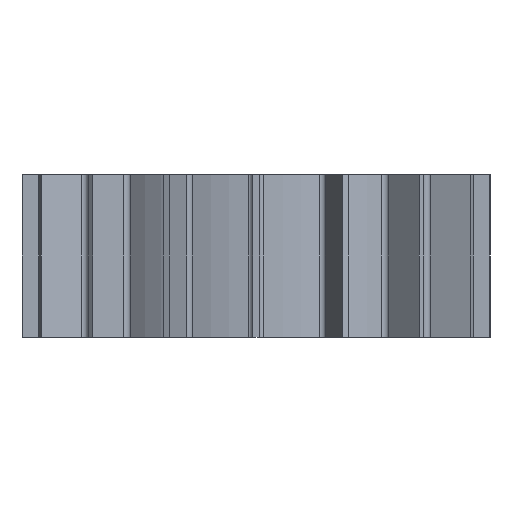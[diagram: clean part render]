
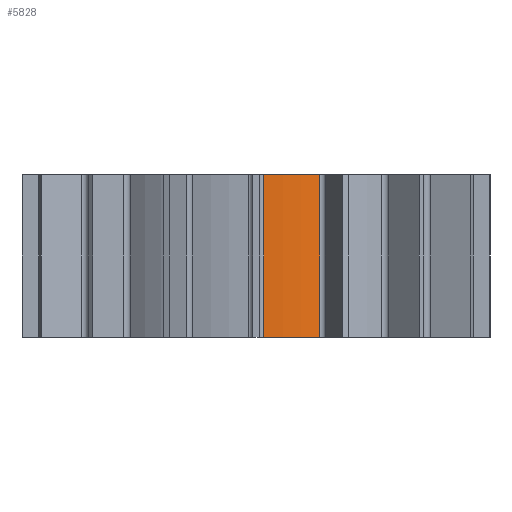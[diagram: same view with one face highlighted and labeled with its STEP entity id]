
A CAD part, front view. The second image highlights one B-rep face of the part: STEP entity #5828.
In plain terms, the highlighted cylindrical face has radius 57 mm (diameter 114 mm), a partial arc.
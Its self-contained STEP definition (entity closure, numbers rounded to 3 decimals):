
#218 = CIRCLE ( 'NONE', #11076, 57. ) ;
#691 = LINE ( 'NONE', #9274, #3677 ) ;
#758 = CARTESIAN_POINT ( 'NONE',  ( 0., 0., 50. ) ) ;
#871 = ORIENTED_EDGE ( 'NONE', *, *, #4387, .F. ) ;
#901 = ORIENTED_EDGE ( 'NONE', *, *, #1910, .T. ) ;
#931 = FACE_OUTER_BOUND ( 'NONE', #10650, .T. ) ;
#1326 = VERTEX_POINT ( 'NONE', #3445 ) ;
#1883 = LINE ( 'NONE', #7120, #6498 ) ;
#1910 = EDGE_CURVE ( 'NONE', #8937, #1326, #218, .T. ) ;
#2506 = CARTESIAN_POINT ( 'NONE',  ( 2.436, -56.948, 0. ) ) ;
#3445 = CARTESIAN_POINT ( 'NONE',  ( 19.543, -53.545, 0. ) ) ;
#3677 = VECTOR ( 'NONE', #4835, 1000. ) ;
#4182 = CARTESIAN_POINT ( 'NONE',  ( 2.436, -56.948, 50. ) ) ;
#4271 = DIRECTION ( 'NONE',  ( 0., 0., -1. ) ) ;
#4378 = DIRECTION ( 'NONE',  ( 0., 0., 1. ) ) ;
#4387 = EDGE_CURVE ( 'NONE', #8937, #9586, #691, .T. ) ;
#4408 = ORIENTED_EDGE ( 'NONE', *, *, #6996, .T. ) ;
#4835 = DIRECTION ( 'NONE',  ( 0., 0., 1. ) ) ;
#5257 = DIRECTION ( 'NONE',  ( 0., 0., 1. ) ) ;
#5292 = DIRECTION ( 'NONE',  ( 1., 0., 0. ) ) ;
#5828 = ADVANCED_FACE ( 'NONE', ( #931 ), #6145, .T. ) ;
#5850 = EDGE_CURVE ( 'NONE', #9586, #10929, #6655, .T. ) ;
#6145 = CYLINDRICAL_SURFACE ( 'NONE', #9200, 57. ) ;
#6498 = VECTOR ( 'NONE', #4378, 1000. ) ;
#6655 = CIRCLE ( 'NONE', #9565, 57. ) ;
#6996 = EDGE_CURVE ( 'NONE', #1326, #10929, #1883, .T. ) ;
#7120 = CARTESIAN_POINT ( 'NONE',  ( 19.543, -53.545, -17.643 ) ) ;
#7829 = CARTESIAN_POINT ( 'NONE',  ( 0., 0., 0. ) ) ;
#8271 = CARTESIAN_POINT ( 'NONE',  ( 19.543, -53.545, 50. ) ) ;
#8594 = CARTESIAN_POINT ( 'NONE',  ( 0., 0., 50. ) ) ;
#8649 = DIRECTION ( 'NONE',  ( 0., 0., 1. ) ) ;
#8736 = DIRECTION ( 'NONE',  ( 1., 0., 0. ) ) ;
#8937 = VERTEX_POINT ( 'NONE', #2506 ) ;
#9200 = AXIS2_PLACEMENT_3D ( 'NONE', #758, #4271, #10290 ) ;
#9274 = CARTESIAN_POINT ( 'NONE',  ( 2.436, -56.948, -15.821 ) ) ;
#9565 = AXIS2_PLACEMENT_3D ( 'NONE', #8594, #8649, #5292 ) ;
#9586 = VERTEX_POINT ( 'NONE', #4182 ) ;
#10290 = DIRECTION ( 'NONE',  ( -1., 0., 0. ) ) ;
#10307 = ORIENTED_EDGE ( 'NONE', *, *, #5850, .F. ) ;
#10650 = EDGE_LOOP ( 'NONE', ( #901, #4408, #10307, #871 ) ) ;
#10929 = VERTEX_POINT ( 'NONE', #8271 ) ;
#11076 = AXIS2_PLACEMENT_3D ( 'NONE', #7829, #5257, #8736 ) ;
